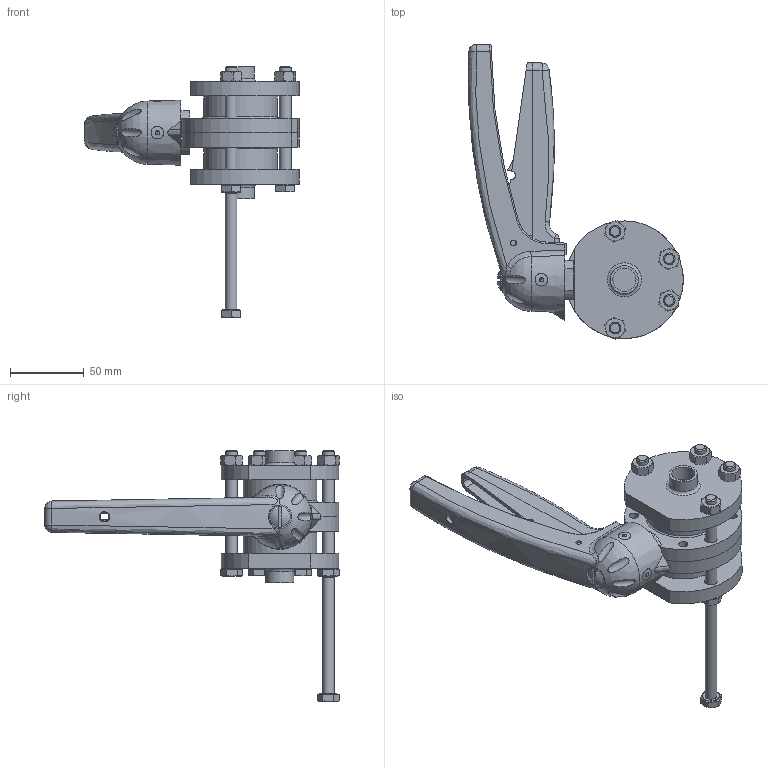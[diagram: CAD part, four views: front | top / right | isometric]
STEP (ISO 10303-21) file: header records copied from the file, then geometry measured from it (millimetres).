
FILE_DESCRIPTION(/* description */ ('VVF VALV.FARF.DN19.05X1.65 WAF4 316 EPDM LEVA 5POS.'),/* implementation_level */ '2;1');
FILE_NAME(/* name */ 'C:\_DED_PWS\GIOR-G\DB\B\EBA\BEBAD9034BEAA-00^SAGOMA.step',/* time_stamp */ '2020-06-25T11:03:23+02:00',/* author */ (''),/* organization */ (''),/* preprocessor_version */ 'ST-DEVELOPER v18',/* originating_system */ 'Autodesk Inventor 2020',/* authorisation */ '');
FILE_SCHEMA (('CONFIG_CONTROL_DESIGN'));
Length unit declared in the file: millimetre
Products named in the file (6): BEBAD9034BEAA; UNI 5588 - M8; UNI 5739 - M8 x 80; TWD030025BBA; Maniglia-5-posizioni-nuova-versione finale 01-2008- 25 - - 65; TPM022034BBA
Assembly tree (14 placements, depth 2):
  BEBAD9034BEAA
    UNI 5588 - M8  x4
    UNI 5739 - M8 x 80  x5
    TWD030025BBA  x2
    Maniglia-5-posizioni-nuova-versione finale 01-2008- 25 - - 65
    TPM022034BBA  x2
Bounding box: 145.89 x 200.39 x 170.6 mm (x, y, z)
Volume: 362218.5 mm3; surface area: 128063.1 mm2
Topology: 14 solids, 15 shells, 659 faces, 1685 edges, 1081 vertices
Faces by surface type: plane 288, cylinder 138, cone 121, bspline 81, sphere 18, torus 13
Full cylindrical faces by diameter (mm): 4 x3, 6 x2, 6.2 x8, 6.5 x1, 6.647 x4, 8 x5, 8.5 x12, 11.63 x5, 13 x1, 14.5 x1, 15.75 x2, 19.05 x2, 50 x2
Entity records: 24403 total; most frequent: CARTESIAN_POINT 12400, ORIENTED_EDGE 2526, DIRECTION 2210, EDGE_CURVE 1263, AXIS2_PLACEMENT_3D 815, VERTEX_POINT 812, LINE 580, VECTOR 580
